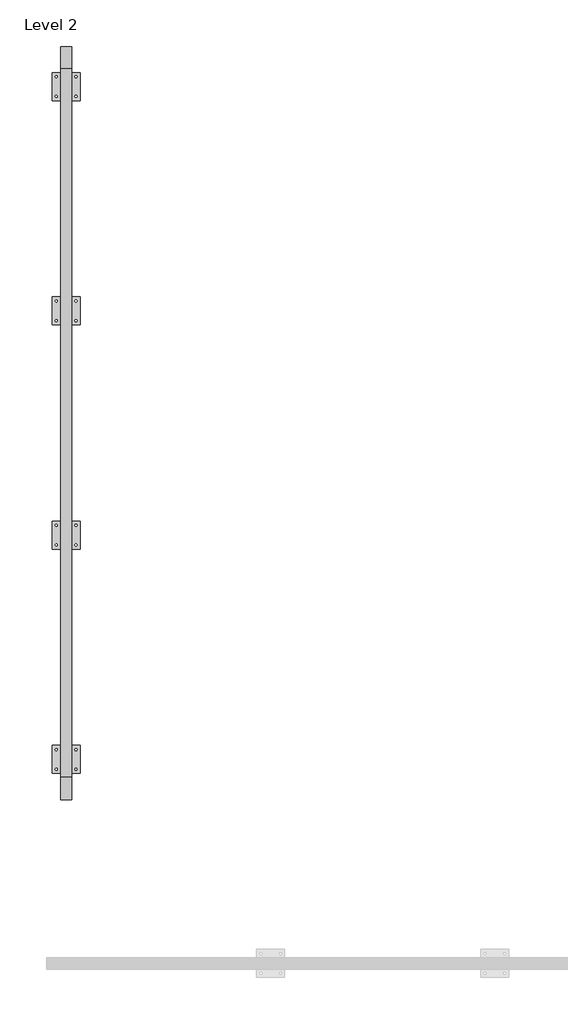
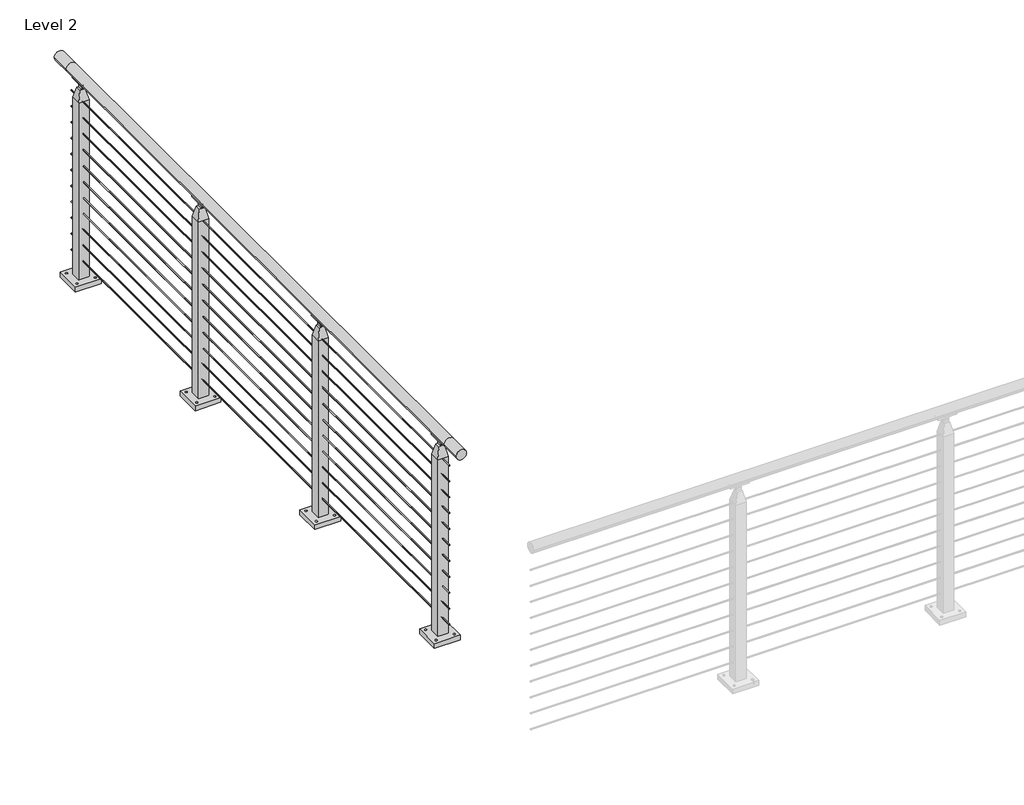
# One storey, part 7 of 17: 1 railing.
"""IFC4 building model written with IfcOpenShell, lengths in millimetres."""

from ifc_helpers import new_model, si_unit, point, frame, frame_2d, origin, place, context, project, spatial, polyline, circle_curve, trimmed, segment, composite_curve, outline, extrude, faceted_brep, element, save
from ifc_brep_helpers import plane_surface, cylinder_surface, revolved_surface, advanced_brep

model = new_model("IFC4")

# Units and contexts
model_context = context("Model", 3, world=origin())
ifc_project = project(units=[si_unit("LENGTHUNIT", "METRE", prefix="MILLI")], contexts=[model_context])

# Site, building, storey
site = spatial("IfcSite", under=ifc_project)
building = spatial("IfcBuilding", under=site)
storey = spatial("IfcBuildingStorey", under=building, Name="Level 2", Elevation=3048.0)

# Railing
placement = place(None, origin())
element("IfcRailing", 1, ObjectType="VIVA-CUBE-Cable-Floor Mount-Straight", at=placement, inside=storey, context=model_context, shape_type="SolidModel", body=[
    advanced_brep(
    [(15627.1572927, -51362.5040223, 4102.1), (15576.3572927, -51362.5040223, 4102.1), (15627.1572927, -51260.9040223, 4102.1), (15576.3572927, -51260.9040223, 4102.1), (15627.1572927, -48053.4426165, 4102.1), (15576.3572927, -48053.4426165, 4102.1), (15627.1572927, -47951.8426165, 4102.1), (15576.3572927, -47951.8426165, 4102.1)],
    [
        (0, 1, circle_curve(frame((15601.7572927, -51362.5040223, 4102.1), z_axis=(0.0, -1.0, 0.0), x_axis=(-1.0, 0.0, 0.0)), 25.4)),
        (1, 0, circle_curve(frame((15601.7572927, -51362.5040223, 4102.1), z_axis=(0.0, -1.0, 0.0), x_axis=(-1.0, 0.0, 0.0)), 25.4)),
        (0, 2),
        (2, 3, circle_curve(frame((15601.7572927, -51260.9040223, 4102.1), z_axis=(0.0, -1.0, 0.0), x_axis=(-1.0, 0.0, 0.0)), 25.4)),
        (3, 1),
        (3, 2, circle_curve(frame((15601.7572927, -51260.9040223, 4102.1), z_axis=(0.0, -1.0, 0.0), x_axis=(-1.0, 0.0, 0.0)), 25.4)),
        (2, 4),
        (4, 5, circle_curve(frame((15601.7572927, -48053.4426165, 4102.1), z_axis=(0.0, -1.0, 0.0), x_axis=(-1.0, 0.0, 0.0)), 25.4)),
        (5, 3),
        (5, 4, circle_curve(frame((15601.7572927, -48053.4426165, 4102.1), z_axis=(0.0, -1.0, 0.0), x_axis=(-1.0, 0.0, 0.0)), 25.4)),
        (6, 7, circle_curve(frame((15601.7572927, -47951.8426165, 4102.1), z_axis=(0.0, 1.0, 0.0), x_axis=(-1.0, 0.0, 0.0)), 25.4)),
        (7, 6, circle_curve(frame((15601.7572927, -47951.8426165, 4102.1), z_axis=(0.0, 1.0, 0.0), x_axis=(-1.0, 0.0, 0.0)), 25.4)),
        (4, 6),
        (7, 5),
    ],
    [
        plane_surface(frame((15601.7572927, -51362.5040223, 4127.5), z_axis=(0.0, -1.0, 0.0), x_axis=(0.0, 0.0, 1.0))),
        cylinder_surface(frame((15601.7572927, -51362.5040223, 4102.1), z_axis=(0.0, -1.0, 0.0), x_axis=(-1.0, 0.0, 0.0)), 25.4),
        cylinder_surface(frame((15601.7572927, -51260.9040223, 4102.1), z_axis=(0.0, -1.0, 0.0), x_axis=(-1.0, 0.0, 0.0)), 25.4),
        plane_surface(frame((15601.7572927, -47951.8426165, 4127.5), z_axis=(0.0, 1.0, 0.0), x_axis=(0.0, 0.0, 1.0))),
        cylinder_surface(frame((15601.7572927, -48053.4426165, 4102.1), z_axis=(0.0, -1.0, 0.0), x_axis=(-1.0, 0.0, 0.0)), 25.4),
    ],
    [
        (0, [[1, 2]]),
        (1, [[-1, 3, 4, 5]]),
        (1, [[-2, -5, 6, -3]]),
        (2, [[-4, 7, 8, 9]]),
        (2, [[-6, -9, 10, -7]]),
        (3, [[11, 12]]),
        (4, [[-8, 13, -12, 14]]),
        (4, [[-10, -14, -11, -13]]),
    ],
),
    extrude(outline(composite_curve([segment(trimmed(circle_curve(frame_2d((3985.4124, 15601.7572927)), 2.3876), [point((3985.4124, 15604.1448927))], [point((3985.4124, 15599.3696927))], False, "CARTESIAN"), True, "CONTINUOUS"), segment(trimmed(circle_curve(frame_2d((3985.4124, 15601.7572927)), 2.3876), [point((3985.4124, 15599.3696927))], [point((3985.4124, 15604.1448927))], False, "CARTESIAN"), True, "CONTINUOUS")], self_intersect=False)), frame((0.0, -51260.9040223, 0.0), z_axis=(0.0, 1.0, 0.0), x_axis=(0.0, 0.0, 1.0)), (0.0, 0.0, 1.0), 3207.4614057),
    extrude(outline(composite_curve([segment(trimmed(circle_curve(frame_2d((3902.8624, 15601.7572927)), 2.3876), [point((3902.8624, 15604.1448927))], [point((3902.8624, 15599.3696927))], False, "CARTESIAN"), True, "CONTINUOUS"), segment(trimmed(circle_curve(frame_2d((3902.8624, 15601.7572927)), 2.3876), [point((3902.8624, 15599.3696927))], [point((3902.8624, 15604.1448927))], False, "CARTESIAN"), True, "CONTINUOUS")], self_intersect=False)), frame((0.0, -51260.9040223, 0.0), z_axis=(0.0, 1.0, 0.0), x_axis=(0.0, 0.0, 1.0)), (0.0, 0.0, 1.0), 3207.4614057),
    extrude(outline(composite_curve([segment(trimmed(circle_curve(frame_2d((3820.3124, 15601.7572927)), 2.3876), [point((3820.3124, 15604.1448927))], [point((3820.3124, 15599.3696927))], False, "CARTESIAN"), True, "CONTINUOUS"), segment(trimmed(circle_curve(frame_2d((3820.3124, 15601.7572927)), 2.3876), [point((3820.3124, 15599.3696927))], [point((3820.3124, 15604.1448927))], False, "CARTESIAN"), True, "CONTINUOUS")], self_intersect=False)), frame((0.0, -51260.9040223, 0.0), z_axis=(0.0, 1.0, 0.0), x_axis=(0.0, 0.0, 1.0)), (0.0, 0.0, 1.0), 3207.4614057),
    extrude(outline(composite_curve([segment(trimmed(circle_curve(frame_2d((3737.7624, 15601.7572927)), 2.3876), [point((3737.7624, 15604.1448927))], [point((3737.7624, 15599.3696927))], False, "CARTESIAN"), True, "CONTINUOUS"), segment(trimmed(circle_curve(frame_2d((3737.7624, 15601.7572927)), 2.3876), [point((3737.7624, 15599.3696927))], [point((3737.7624, 15604.1448927))], False, "CARTESIAN"), True, "CONTINUOUS")], self_intersect=False)), frame((0.0, -51260.9040223, 0.0), z_axis=(0.0, 1.0, 0.0), x_axis=(0.0, 0.0, 1.0)), (0.0, 0.0, 1.0), 3207.4614057),
    extrude(outline(composite_curve([segment(trimmed(circle_curve(frame_2d((3655.2124, 15601.7572927)), 2.3876), [point((3655.2124, 15604.1448927))], [point((3655.2124, 15599.3696927))], False, "CARTESIAN"), True, "CONTINUOUS"), segment(trimmed(circle_curve(frame_2d((3655.2124, 15601.7572927)), 2.3876), [point((3655.2124, 15599.3696927))], [point((3655.2124, 15604.1448927))], False, "CARTESIAN"), True, "CONTINUOUS")], self_intersect=False)), frame((0.0, -51260.9040223, 0.0), z_axis=(0.0, 1.0, 0.0), x_axis=(0.0, 0.0, 1.0)), (0.0, 0.0, 1.0), 3207.4614057),
    extrude(outline(composite_curve([segment(trimmed(circle_curve(frame_2d((3572.6624, 15601.7572927)), 2.3876), [point((3572.6624, 15604.1448927))], [point((3572.6624, 15599.3696927))], False, "CARTESIAN"), True, "CONTINUOUS"), segment(trimmed(circle_curve(frame_2d((3572.6624, 15601.7572927)), 2.3876), [point((3572.6624, 15599.3696927))], [point((3572.6624, 15604.1448927))], False, "CARTESIAN"), True, "CONTINUOUS")], self_intersect=False)), frame((0.0, -51260.9040223, 0.0), z_axis=(0.0, 1.0, 0.0), x_axis=(0.0, 0.0, 1.0)), (0.0, 0.0, 1.0), 3207.4614057),
    extrude(outline(composite_curve([segment(trimmed(circle_curve(frame_2d((3490.1124, 15601.7572927)), 2.3876), [point((3490.1124, 15604.1448927))], [point((3490.1124, 15599.3696927))], False, "CARTESIAN"), True, "CONTINUOUS"), segment(trimmed(circle_curve(frame_2d((3490.1124, 15601.7572927)), 2.3876), [point((3490.1124, 15599.3696927))], [point((3490.1124, 15604.1448927))], False, "CARTESIAN"), True, "CONTINUOUS")], self_intersect=False)), frame((0.0, -51260.9040223, 0.0), z_axis=(0.0, 1.0, 0.0), x_axis=(0.0, 0.0, 1.0)), (0.0, 0.0, 1.0), 3207.4614057),
    extrude(outline(composite_curve([segment(trimmed(circle_curve(frame_2d((3407.5624, 15601.7572927)), 2.3876), [point((3407.5624, 15604.1448927))], [point((3407.5624, 15599.3696927))], False, "CARTESIAN"), True, "CONTINUOUS"), segment(trimmed(circle_curve(frame_2d((3407.5624, 15601.7572927)), 2.3876), [point((3407.5624, 15599.3696927))], [point((3407.5624, 15604.1448927))], False, "CARTESIAN"), True, "CONTINUOUS")], self_intersect=False)), frame((0.0, -51260.9040223, 0.0), z_axis=(0.0, 1.0, 0.0), x_axis=(0.0, 0.0, 1.0)), (0.0, 0.0, 1.0), 3207.4614057),
    extrude(outline(composite_curve([segment(trimmed(circle_curve(frame_2d((3325.0124, 15601.7572927)), 2.3876), [point((3325.0124, 15604.1448927))], [point((3325.0124, 15599.3696927))], False, "CARTESIAN"), True, "CONTINUOUS"), segment(trimmed(circle_curve(frame_2d((3325.0124, 15601.7572927)), 2.3876), [point((3325.0124, 15599.3696927))], [point((3325.0124, 15604.1448927))], False, "CARTESIAN"), True, "CONTINUOUS")], self_intersect=False)), frame((0.0, -51260.9040223, 0.0), z_axis=(0.0, 1.0, 0.0), x_axis=(0.0, 0.0, 1.0)), (0.0, 0.0, 1.0), 3207.4614057),
    extrude(outline(composite_curve([segment(trimmed(circle_curve(frame_2d((3242.4624, 15601.7572927)), 2.3876), [point((3242.4624, 15604.1448927))], [point((3242.4624, 15599.3696927))], False, "CARTESIAN"), True, "CONTINUOUS"), segment(trimmed(circle_curve(frame_2d((3242.4624, 15601.7572927)), 2.3876), [point((3242.4624, 15599.3696927))], [point((3242.4624, 15604.1448927))], False, "CARTESIAN"), True, "CONTINUOUS")], self_intersect=False)), frame((0.0, -51260.9040223, 0.0), z_axis=(0.0, 1.0, 0.0), x_axis=(0.0, 0.0, 1.0)), (0.0, 0.0, 1.0), 3207.4614057),
    extrude(outline(composite_curve([segment(trimmed(circle_curve(frame_2d((3159.9124, 15601.7572927)), 2.3876), [point((3159.9124, 15604.1448927))], [point((3159.9124, 15599.3696927))], False, "CARTESIAN"), True, "CONTINUOUS"), segment(trimmed(circle_curve(frame_2d((3159.9124, 15601.7572927)), 2.3876), [point((3159.9124, 15599.3696927))], [point((3159.9124, 15604.1448927))], False, "CARTESIAN"), True, "CONTINUOUS")], self_intersect=False)), frame((0.0, -51260.9040223, 0.0), z_axis=(0.0, 1.0, 0.0), x_axis=(0.0, 0.0, 1.0)), (0.0, 0.0, 1.0), 3207.4614057),
    extrude(outline(polyline([(15665.2572927, -48069.2764444), (15665.2572927, -48196.2764444), (15538.2572927, -48196.2764444), (15538.2572927, -48069.2764444), (15665.2572927, -48069.2764444)]), holes=[composite_curve([segment(trimmed(circle_curve(frame_2d((15557.3072927, -48177.2264444)), 4.7625), [point((15552.5447927, -48177.2264444))], [point((15562.0697927, -48177.2264444))], True, "CARTESIAN"), True, "CONTINUOUS"), segment(trimmed(circle_curve(frame_2d((15557.3072927, -48177.2264444)), 4.7625), [point((15562.0697927, -48177.2264444))], [point((15552.5447927, -48177.2264444))], True, "CARTESIAN"), True, "CONTINUOUS")], self_intersect=False), composite_curve([segment(trimmed(circle_curve(frame_2d((15646.2072927, -48177.2264444)), 4.7625), [point((15641.4447927, -48177.2264444))], [point((15650.9697927, -48177.2264444))], True, "CARTESIAN"), True, "CONTINUOUS"), segment(trimmed(circle_curve(frame_2d((15646.2072927, -48177.2264444)), 4.7625), [point((15650.9697927, -48177.2264444))], [point((15641.4447927, -48177.2264444))], True, "CARTESIAN"), True, "CONTINUOUS")], self_intersect=False), composite_curve([segment(trimmed(circle_curve(frame_2d((15557.3072927, -48088.3264444)), 4.7625), [point((15552.5447927, -48088.3264444))], [point((15562.0697927, -48088.3264444))], True, "CARTESIAN"), True, "CONTINUOUS"), segment(trimmed(circle_curve(frame_2d((15557.3072927, -48088.3264444)), 4.7625), [point((15562.0697927, -48088.3264444))], [point((15552.5447927, -48088.3264444))], True, "CARTESIAN"), True, "CONTINUOUS")], self_intersect=False), composite_curve([segment(trimmed(circle_curve(frame_2d((15646.2072927, -48088.3264444)), 4.7625), [point((15641.4447927, -48088.3264444))], [point((15650.9697927, -48088.3264444))], True, "CARTESIAN"), True, "CONTINUOUS"), segment(trimmed(circle_curve(frame_2d((15646.2072927, -48088.3264444)), 4.7625), [point((15650.9697927, -48088.3264444))], [point((15641.4447927, -48088.3264444))], True, "CARTESIAN"), True, "CONTINUOUS")], self_intersect=False)]), frame((0.0, 0.0, 3048.0), z_axis=(0.0, 0.0, 1.0), x_axis=(1.0, 0.0, 0.0)), (0.0, 0.0, 1.0), 25.4),
    faceted_brep([(15614.4572927, -48120.0764444, 4045.2902749), (15605.7260427, -48120.0764444, 4045.2902749), (15605.7260427, -48145.4764444, 4045.2902749), (15614.4572927, -48145.4764444, 4045.2902749), (15589.0572927, -48145.4764444, 4045.2902749), (15597.7885427, -48145.4764444, 4045.2902749), (15597.7885427, -48120.0764444, 4045.2902749), (15589.0572927, -48120.0764444, 4045.2902749), (15627.1572927, -48107.3764444, 3989.1347854), (15576.3572927, -48107.3764444, 3989.1347854), (15627.1572927, -48158.1764444, 3989.1347854), (15576.3572927, -48158.1764444, 3989.1347854), (15627.1572927, -48107.3764444, 3073.4), (15627.1572927, -48158.1764444, 3073.4), (15576.3572927, -48158.1764444, 3073.4), (15576.3572927, -48107.3764444, 3073.4), (15597.7885427, -48145.4764444, 4057.3306013), (15605.7260427, -48145.4764444, 4057.3306013), (15605.7260427, -48120.0764444, 4057.3306013), (15597.7885427, -48120.0764444, 4057.3306013)], [[[0, 1, 2, 3]], [[4, 5, 6, 7]], [[8, 9, 7, 6, 1, 0]], [[3, 10, 8, 0]], [[3, 2, 5, 4, 11, 10]], [[7, 9, 11, 4]], [[12, 13, 14, 15]], [[12, 8, 10, 13]], [[13, 10, 11, 14]], [[14, 11, 9, 15]], [[15, 9, 8, 12]], [[16, 17, 18, 19]], [[19, 6, 5, 16]], [[18, 1, 6, 19]], [[17, 2, 1, 18]], [[16, 5, 2, 17]]]),
    extrude(outline(composite_curve([segment(trimmed(circle_curve(frame_2d((4077.5101807, 15587.7426605)), 2.9558141), [point((4080.0284941, 15589.2902182))], [point((4075.6392616, 15585.4543207))], False, "CARTESIAN"), True, "CONTINUOUS"), segment(trimmed(circle_curve(frame_2d((4102.905945, 15601.720558)), 31.75), [point((4075.6392616, 15585.4543207))], [point((4075.0585031, 15616.971213))], False, "CARTESIAN"), True, "CONTINUOUS"), segment(trimmed(circle_curve(frame_2d((4077.4310885, 15615.4939079)), 2.7949225), [point((4075.0585031, 15616.971213))], [point((4079.9335733, 15614.2492548))], False, "CARTESIAN"), True, "CONTINUOUS"), segment(trimmed(circle_curve(frame_2d((4102.1433184, 15601.8540211)), 25.4345159), [point((4079.9335733, 15614.2492548))], [point((4080.0284941, 15589.2902182))], True, "CARTESIAN"), True, "CONTINUOUS")], self_intersect=False)), frame((0.0, -48178.0138444, 0.0), z_axis=(0.0, 1.0, 0.0), x_axis=(0.0, 0.0, 1.0)), (0.0, 0.0, 1.0), 90.4748),
    advanced_brep(
    [(15604.2972927, -48105.7085295, 4071.3685171), (15604.2972927, -48159.8443593, 4071.3685171), (15604.2972927, -48145.4764444, 4057.0006022), (15604.2972927, -48120.0764444, 4057.0006022), (15599.2172927, -48105.7085295, 4071.3685171), (15599.2172927, -48120.0764444, 4057.0006022), (15599.2172927, -48145.4764444, 4057.0006022), (15599.2172927, -48159.8443593, 4071.3685171)],
    [
        (0, 1),
        (1, 2, circle_curve(frame((15604.2972927, -48159.8443593, 4057.0006022), z_axis=(-1.0, 0.0, 0.0), x_axis=(0.0, -1.0, 0.0)), 14.3679149)),
        (2, 3, circle_curve(frame((15604.2972927, -48132.7764444, 4057.0006022), z_axis=(1.0, 0.0, 0.0), x_axis=(0.0, -1.0, 0.0)), 12.7)),
        (3, 0, circle_curve(frame((15604.2972927, -48105.7085295, 4057.0006022), z_axis=(-1.0, 0.0, 0.0), x_axis=(0.0, -1.0, 0.0)), 14.3679149)),
        (4, 5, circle_curve(frame((15599.2172927, -48105.7085295, 4057.0006022), z_axis=(1.0, 0.0, 0.0), x_axis=(0.0, -1.0, 0.0)), 14.3679149)),
        (5, 6, circle_curve(frame((15599.2172927, -48132.7764444, 4057.0006022), z_axis=(-1.0, 0.0, 0.0), x_axis=(0.0, -1.0, 0.0)), 12.7)),
        (6, 7, circle_curve(frame((15599.2172927, -48159.8443593, 4057.0006022), z_axis=(1.0, 0.0, 0.0), x_axis=(0.0, -1.0, 0.0)), 14.3679149)),
        (7, 4),
        (3, 5),
        (4, 0),
        (2, 6),
        (1, 7),
    ],
    [
        plane_surface(frame((15604.2972927, -48120.0764444, 4057.0006022), z_axis=(1.0, 0.0, 0.0), x_axis=(0.0, 0.0, -1.0))),
        plane_surface(frame((15599.2172927, -48120.0764444, 4057.0006022), z_axis=(-1.0, 0.0, 0.0), x_axis=(0.0, 0.0, 1.0))),
        revolved_surface(polyline([(15599.2172927, -48120.0764444, 4057.0006022), (15604.2972927, -48120.0764444, 4057.0006022)]), (15599.2172927, -48105.7085295, 4057.0006022), (-1.0, 0.0, 0.0)),
        cylinder_surface(frame((15599.2172927, -48132.7764444, 4057.0006022), z_axis=(1.0, 0.0, 0.0), x_axis=(0.0, -1.0, 0.0)), 12.7),
        revolved_surface(polyline([(15599.2172927, -48174.2122742, 4057.0006022), (15604.2972927, -48174.2122742, 4057.0006022)]), (15599.2172927, -48159.8443593, 4057.0006022), (-1.0, 0.0, 0.0)),
        plane_surface(frame((15604.2972927, -48159.8443593, 4071.3685171), z_axis=(0.0, 0.0, 1.0), x_axis=(-1.0, 0.0, 0.0))),
    ],
    [
        (0, [[1, 2, 3, 4]]),
        (1, [[5, 6, 7, 8]]),
        (2, [[9, -5, 10, -4]]),
        (3, [[11, -6, -9, -3]]),
        (4, [[12, -7, -11, -2]]),
        (5, [[-10, -8, -12, -1]]),
    ],
),
    extrude(outline(polyline([(15665.2572927, -49085.2764444), (15665.2572927, -49212.2764444), (15538.2572927, -49212.2764444), (15538.2572927, -49085.2764444), (15665.2572927, -49085.2764444)]), holes=[composite_curve([segment(trimmed(circle_curve(frame_2d((15557.3072927, -49193.2264444)), 4.7625), [point((15552.5447927, -49193.2264444))], [point((15562.0697927, -49193.2264444))], True, "CARTESIAN"), True, "CONTINUOUS"), segment(trimmed(circle_curve(frame_2d((15557.3072927, -49193.2264444)), 4.7625), [point((15562.0697927, -49193.2264444))], [point((15552.5447927, -49193.2264444))], True, "CARTESIAN"), True, "CONTINUOUS")], self_intersect=False), composite_curve([segment(trimmed(circle_curve(frame_2d((15646.2072927, -49193.2264444)), 4.7625), [point((15641.4447927, -49193.2264444))], [point((15650.9697927, -49193.2264444))], True, "CARTESIAN"), True, "CONTINUOUS"), segment(trimmed(circle_curve(frame_2d((15646.2072927, -49193.2264444)), 4.7625), [point((15650.9697927, -49193.2264444))], [point((15641.4447927, -49193.2264444))], True, "CARTESIAN"), True, "CONTINUOUS")], self_intersect=False), composite_curve([segment(trimmed(circle_curve(frame_2d((15557.3072927, -49104.3264444)), 4.7625), [point((15552.5447927, -49104.3264444))], [point((15562.0697927, -49104.3264444))], True, "CARTESIAN"), True, "CONTINUOUS"), segment(trimmed(circle_curve(frame_2d((15557.3072927, -49104.3264444)), 4.7625), [point((15562.0697927, -49104.3264444))], [point((15552.5447927, -49104.3264444))], True, "CARTESIAN"), True, "CONTINUOUS")], self_intersect=False), composite_curve([segment(trimmed(circle_curve(frame_2d((15646.2072927, -49104.3264444)), 4.7625), [point((15641.4447927, -49104.3264444))], [point((15650.9697927, -49104.3264444))], True, "CARTESIAN"), True, "CONTINUOUS"), segment(trimmed(circle_curve(frame_2d((15646.2072927, -49104.3264444)), 4.7625), [point((15650.9697927, -49104.3264444))], [point((15641.4447927, -49104.3264444))], True, "CARTESIAN"), True, "CONTINUOUS")], self_intersect=False)]), frame((0.0, 0.0, 3048.0), z_axis=(0.0, 0.0, 1.0), x_axis=(1.0, 0.0, 0.0)), (0.0, 0.0, 1.0), 25.4),
    faceted_brep([(15614.4572927, -49136.0764444, 4045.2902749), (15605.7260427, -49136.0764444, 4045.2902749), (15605.7260427, -49161.4764444, 4045.2902749), (15614.4572927, -49161.4764444, 4045.2902749), (15589.0572927, -49161.4764444, 4045.2902749), (15597.7885427, -49161.4764444, 4045.2902749), (15597.7885427, -49136.0764444, 4045.2902749), (15589.0572927, -49136.0764444, 4045.2902749), (15627.1572927, -49123.3764444, 3989.1347854), (15576.3572927, -49123.3764444, 3989.1347854), (15627.1572927, -49174.1764444, 3989.1347854), (15576.3572927, -49174.1764444, 3989.1347854), (15627.1572927, -49123.3764444, 3073.4), (15627.1572927, -49174.1764444, 3073.4), (15576.3572927, -49174.1764444, 3073.4), (15576.3572927, -49123.3764444, 3073.4), (15597.7885427, -49161.4764444, 4057.3306013), (15605.7260427, -49161.4764444, 4057.3306013), (15605.7260427, -49136.0764444, 4057.3306013), (15597.7885427, -49136.0764444, 4057.3306013)], [[[0, 1, 2, 3]], [[4, 5, 6, 7]], [[8, 9, 7, 6, 1, 0]], [[3, 10, 8, 0]], [[3, 2, 5, 4, 11, 10]], [[7, 9, 11, 4]], [[12, 13, 14, 15]], [[12, 8, 10, 13]], [[13, 10, 11, 14]], [[14, 11, 9, 15]], [[15, 9, 8, 12]], [[16, 17, 18, 19]], [[19, 6, 5, 16]], [[18, 1, 6, 19]], [[17, 2, 1, 18]], [[16, 5, 2, 17]]]),
    extrude(outline(composite_curve([segment(trimmed(circle_curve(frame_2d((4077.5101807, 15587.7426605)), 2.9558141), [point((4080.0284941, 15589.2902182))], [point((4075.6392616, 15585.4543207))], False, "CARTESIAN"), True, "CONTINUOUS"), segment(trimmed(circle_curve(frame_2d((4102.905945, 15601.720558)), 31.75), [point((4075.6392616, 15585.4543207))], [point((4075.0585031, 15616.971213))], False, "CARTESIAN"), True, "CONTINUOUS"), segment(trimmed(circle_curve(frame_2d((4077.4310885, 15615.4939079)), 2.7949225), [point((4075.0585031, 15616.971213))], [point((4079.9335733, 15614.2492548))], False, "CARTESIAN"), True, "CONTINUOUS"), segment(trimmed(circle_curve(frame_2d((4102.1433184, 15601.8540211)), 25.4345159), [point((4079.9335733, 15614.2492548))], [point((4080.0284941, 15589.2902182))], True, "CARTESIAN"), True, "CONTINUOUS")], self_intersect=False)), frame((0.0, -49194.0138444, 0.0), z_axis=(0.0, 1.0, 0.0), x_axis=(0.0, 0.0, 1.0)), (0.0, 0.0, 1.0), 90.4748),
    advanced_brep(
    [(15604.2972927, -49121.7085295, 4071.3685171), (15604.2972927, -49175.8443593, 4071.3685171), (15604.2972927, -49161.4764444, 4057.0006022), (15604.2972927, -49136.0764444, 4057.0006022), (15599.2172927, -49121.7085295, 4071.3685171), (15599.2172927, -49136.0764444, 4057.0006022), (15599.2172927, -49161.4764444, 4057.0006022), (15599.2172927, -49175.8443593, 4071.3685171)],
    [
        (0, 1),
        (1, 2, circle_curve(frame((15604.2972927, -49175.8443593, 4057.0006022), z_axis=(-1.0, 0.0, 0.0), x_axis=(0.0, -1.0, 0.0)), 14.3679149)),
        (2, 3, circle_curve(frame((15604.2972927, -49148.7764444, 4057.0006022), z_axis=(1.0, 0.0, 0.0), x_axis=(0.0, -1.0, 0.0)), 12.7)),
        (3, 0, circle_curve(frame((15604.2972927, -49121.7085295, 4057.0006022), z_axis=(-1.0, 0.0, 0.0), x_axis=(0.0, -1.0, 0.0)), 14.3679149)),
        (4, 5, circle_curve(frame((15599.2172927, -49121.7085295, 4057.0006022), z_axis=(1.0, 0.0, 0.0), x_axis=(0.0, -1.0, 0.0)), 14.3679149)),
        (5, 6, circle_curve(frame((15599.2172927, -49148.7764444, 4057.0006022), z_axis=(-1.0, 0.0, 0.0), x_axis=(0.0, -1.0, 0.0)), 12.7)),
        (6, 7, circle_curve(frame((15599.2172927, -49175.8443593, 4057.0006022), z_axis=(1.0, 0.0, 0.0), x_axis=(0.0, -1.0, 0.0)), 14.3679149)),
        (7, 4),
        (3, 5),
        (4, 0),
        (2, 6),
        (1, 7),
    ],
    [
        plane_surface(frame((15604.2972927, -49136.0764444, 4057.0006022), z_axis=(1.0, 0.0, 0.0), x_axis=(0.0, 0.0, -1.0))),
        plane_surface(frame((15599.2172927, -49136.0764444, 4057.0006022), z_axis=(-1.0, 0.0, 0.0), x_axis=(0.0, 0.0, 1.0))),
        revolved_surface(polyline([(15599.2172927, -49136.0764444, 4057.0006022), (15604.2972927, -49136.0764444, 4057.0006022)]), (15599.2172927, -49121.7085295, 4057.0006022), (-1.0, 0.0, 0.0)),
        cylinder_surface(frame((15599.2172927, -49148.7764444, 4057.0006022), z_axis=(1.0, 0.0, 0.0), x_axis=(0.0, -1.0, 0.0)), 12.7),
        revolved_surface(polyline([(15599.2172927, -49190.2122742, 4057.0006022), (15604.2972927, -49190.2122742, 4057.0006022)]), (15599.2172927, -49175.8443593, 4057.0006022), (-1.0, 0.0, 0.0)),
        plane_surface(frame((15604.2972927, -49175.8443593, 4071.3685171), z_axis=(0.0, 0.0, 1.0), x_axis=(-1.0, 0.0, 0.0))),
    ],
    [
        (0, [[1, 2, 3, 4]]),
        (1, [[5, 6, 7, 8]]),
        (2, [[9, -5, 10, -4]]),
        (3, [[11, -6, -9, -3]]),
        (4, [[12, -7, -11, -2]]),
        (5, [[-10, -8, -12, -1]]),
    ],
),
    extrude(outline(polyline([(15665.2572927, -50101.2764444), (15665.2572927, -50228.2764444), (15538.2572927, -50228.2764444), (15538.2572927, -50101.2764444), (15665.2572927, -50101.2764444)]), holes=[composite_curve([segment(trimmed(circle_curve(frame_2d((15557.3072927, -50209.2264444)), 4.7625), [point((15552.5447927, -50209.2264444))], [point((15562.0697927, -50209.2264444))], True, "CARTESIAN"), True, "CONTINUOUS"), segment(trimmed(circle_curve(frame_2d((15557.3072927, -50209.2264444)), 4.7625), [point((15562.0697927, -50209.2264444))], [point((15552.5447927, -50209.2264444))], True, "CARTESIAN"), True, "CONTINUOUS")], self_intersect=False), composite_curve([segment(trimmed(circle_curve(frame_2d((15646.2072927, -50209.2264444)), 4.7625), [point((15641.4447927, -50209.2264444))], [point((15650.9697927, -50209.2264444))], True, "CARTESIAN"), True, "CONTINUOUS"), segment(trimmed(circle_curve(frame_2d((15646.2072927, -50209.2264444)), 4.7625), [point((15650.9697927, -50209.2264444))], [point((15641.4447927, -50209.2264444))], True, "CARTESIAN"), True, "CONTINUOUS")], self_intersect=False), composite_curve([segment(trimmed(circle_curve(frame_2d((15557.3072927, -50120.3264444)), 4.7625), [point((15552.5447927, -50120.3264444))], [point((15562.0697927, -50120.3264444))], True, "CARTESIAN"), True, "CONTINUOUS"), segment(trimmed(circle_curve(frame_2d((15557.3072927, -50120.3264444)), 4.7625), [point((15562.0697927, -50120.3264444))], [point((15552.5447927, -50120.3264444))], True, "CARTESIAN"), True, "CONTINUOUS")], self_intersect=False), composite_curve([segment(trimmed(circle_curve(frame_2d((15646.2072927, -50120.3264444)), 4.7625), [point((15641.4447927, -50120.3264444))], [point((15650.9697927, -50120.3264444))], True, "CARTESIAN"), True, "CONTINUOUS"), segment(trimmed(circle_curve(frame_2d((15646.2072927, -50120.3264444)), 4.7625), [point((15650.9697927, -50120.3264444))], [point((15641.4447927, -50120.3264444))], True, "CARTESIAN"), True, "CONTINUOUS")], self_intersect=False)]), frame((0.0, 0.0, 3048.0), z_axis=(0.0, 0.0, 1.0), x_axis=(1.0, 0.0, 0.0)), (0.0, 0.0, 1.0), 25.4),
    faceted_brep([(15614.4572927, -50152.0764444, 4045.2902749), (15605.7260427, -50152.0764444, 4045.2902749), (15605.7260427, -50177.4764444, 4045.2902749), (15614.4572927, -50177.4764444, 4045.2902749), (15589.0572927, -50177.4764444, 4045.2902749), (15597.7885427, -50177.4764444, 4045.2902749), (15597.7885427, -50152.0764444, 4045.2902749), (15589.0572927, -50152.0764444, 4045.2902749), (15627.1572927, -50139.3764444, 3989.1347854), (15576.3572927, -50139.3764444, 3989.1347854), (15627.1572927, -50190.1764444, 3989.1347854), (15576.3572927, -50190.1764444, 3989.1347854), (15627.1572927, -50139.3764444, 3073.4), (15627.1572927, -50190.1764444, 3073.4), (15576.3572927, -50190.1764444, 3073.4), (15576.3572927, -50139.3764444, 3073.4), (15597.7885427, -50177.4764444, 4057.3306013), (15605.7260427, -50177.4764444, 4057.3306013), (15605.7260427, -50152.0764444, 4057.3306013), (15597.7885427, -50152.0764444, 4057.3306013)], [[[0, 1, 2, 3]], [[4, 5, 6, 7]], [[8, 9, 7, 6, 1, 0]], [[3, 10, 8, 0]], [[3, 2, 5, 4, 11, 10]], [[7, 9, 11, 4]], [[12, 13, 14, 15]], [[12, 8, 10, 13]], [[13, 10, 11, 14]], [[14, 11, 9, 15]], [[15, 9, 8, 12]], [[16, 17, 18, 19]], [[19, 6, 5, 16]], [[18, 1, 6, 19]], [[17, 2, 1, 18]], [[16, 5, 2, 17]]]),
    extrude(outline(composite_curve([segment(trimmed(circle_curve(frame_2d((4077.5101807, 15587.7426605)), 2.9558141), [point((4080.0284941, 15589.2902182))], [point((4075.6392616, 15585.4543207))], False, "CARTESIAN"), True, "CONTINUOUS"), segment(trimmed(circle_curve(frame_2d((4102.905945, 15601.720558)), 31.75), [point((4075.6392616, 15585.4543207))], [point((4075.0585031, 15616.971213))], False, "CARTESIAN"), True, "CONTINUOUS"), segment(trimmed(circle_curve(frame_2d((4077.4310885, 15615.4939079)), 2.7949225), [point((4075.0585031, 15616.971213))], [point((4079.9335733, 15614.2492548))], False, "CARTESIAN"), True, "CONTINUOUS"), segment(trimmed(circle_curve(frame_2d((4102.1433184, 15601.8540211)), 25.4345159), [point((4079.9335733, 15614.2492548))], [point((4080.0284941, 15589.2902182))], True, "CARTESIAN"), True, "CONTINUOUS")], self_intersect=False)), frame((0.0, -50210.0138444, 0.0), z_axis=(0.0, 1.0, 0.0), x_axis=(0.0, 0.0, 1.0)), (0.0, 0.0, 1.0), 90.4748),
    advanced_brep(
    [(15604.2972927, -50137.7085295, 4071.3685171), (15604.2972927, -50191.8443593, 4071.3685171), (15604.2972927, -50177.4764444, 4057.0006022), (15604.2972927, -50152.0764444, 4057.0006022), (15599.2172927, -50137.7085295, 4071.3685171), (15599.2172927, -50152.0764444, 4057.0006022), (15599.2172927, -50177.4764444, 4057.0006022), (15599.2172927, -50191.8443593, 4071.3685171)],
    [
        (0, 1),
        (1, 2, circle_curve(frame((15604.2972927, -50191.8443593, 4057.0006022), z_axis=(-1.0, 0.0, 0.0), x_axis=(0.0, -1.0, 0.0)), 14.3679149)),
        (2, 3, circle_curve(frame((15604.2972927, -50164.7764444, 4057.0006022), z_axis=(1.0, 0.0, 0.0), x_axis=(0.0, -1.0, 0.0)), 12.7)),
        (3, 0, circle_curve(frame((15604.2972927, -50137.7085295, 4057.0006022), z_axis=(-1.0, 0.0, 0.0), x_axis=(0.0, -1.0, 0.0)), 14.3679149)),
        (4, 5, circle_curve(frame((15599.2172927, -50137.7085295, 4057.0006022), z_axis=(1.0, 0.0, 0.0), x_axis=(0.0, -1.0, 0.0)), 14.3679149)),
        (5, 6, circle_curve(frame((15599.2172927, -50164.7764444, 4057.0006022), z_axis=(-1.0, 0.0, 0.0), x_axis=(0.0, -1.0, 0.0)), 12.7)),
        (6, 7, circle_curve(frame((15599.2172927, -50191.8443593, 4057.0006022), z_axis=(1.0, 0.0, 0.0), x_axis=(0.0, -1.0, 0.0)), 14.3679149)),
        (7, 4),
        (3, 5),
        (4, 0),
        (2, 6),
        (1, 7),
    ],
    [
        plane_surface(frame((15604.2972927, -50152.0764444, 4057.0006022), z_axis=(1.0, 0.0, 0.0), x_axis=(0.0, 0.0, -1.0))),
        plane_surface(frame((15599.2172927, -50152.0764444, 4057.0006022), z_axis=(-1.0, 0.0, 0.0), x_axis=(0.0, 0.0, 1.0))),
        revolved_surface(polyline([(15599.2172927, -50152.0764444, 4057.0006022), (15604.2972927, -50152.0764444, 4057.0006022)]), (15599.2172927, -50137.7085295, 4057.0006022), (-1.0, 0.0, 0.0)),
        cylinder_surface(frame((15599.2172927, -50164.7764444, 4057.0006022), z_axis=(1.0, 0.0, 0.0), x_axis=(0.0, -1.0, 0.0)), 12.7),
        revolved_surface(polyline([(15599.2172927, -50206.2122742, 4057.0006022), (15604.2972927, -50206.2122742, 4057.0006022)]), (15599.2172927, -50191.8443593, 4057.0006022), (-1.0, 0.0, 0.0)),
        plane_surface(frame((15604.2972927, -50191.8443593, 4071.3685171), z_axis=(0.0, 0.0, 1.0), x_axis=(-1.0, 0.0, 0.0))),
    ],
    [
        (0, [[1, 2, 3, 4]]),
        (1, [[5, 6, 7, 8]]),
        (2, [[9, -5, 10, -4]]),
        (3, [[11, -6, -9, -3]]),
        (4, [[12, -7, -11, -2]]),
        (5, [[-10, -8, -12, -1]]),
    ],
),
    extrude(outline(polyline([(15665.2572927, -51117.2764444), (15665.2572927, -51244.2764444), (15538.2572927, -51244.2764444), (15538.2572927, -51117.2764444), (15665.2572927, -51117.2764444)]), holes=[composite_curve([segment(trimmed(circle_curve(frame_2d((15557.3072927, -51225.2264444)), 4.7625), [point((15552.5447927, -51225.2264444))], [point((15562.0697927, -51225.2264444))], True, "CARTESIAN"), True, "CONTINUOUS"), segment(trimmed(circle_curve(frame_2d((15557.3072927, -51225.2264444)), 4.7625), [point((15562.0697927, -51225.2264444))], [point((15552.5447927, -51225.2264444))], True, "CARTESIAN"), True, "CONTINUOUS")], self_intersect=False), composite_curve([segment(trimmed(circle_curve(frame_2d((15646.2072927, -51225.2264444)), 4.7625), [point((15641.4447927, -51225.2264444))], [point((15650.9697927, -51225.2264444))], True, "CARTESIAN"), True, "CONTINUOUS"), segment(trimmed(circle_curve(frame_2d((15646.2072927, -51225.2264444)), 4.7625), [point((15650.9697927, -51225.2264444))], [point((15641.4447927, -51225.2264444))], True, "CARTESIAN"), True, "CONTINUOUS")], self_intersect=False), composite_curve([segment(trimmed(circle_curve(frame_2d((15557.3072927, -51136.3264444)), 4.7625), [point((15552.5447927, -51136.3264444))], [point((15562.0697927, -51136.3264444))], True, "CARTESIAN"), True, "CONTINUOUS"), segment(trimmed(circle_curve(frame_2d((15557.3072927, -51136.3264444)), 4.7625), [point((15562.0697927, -51136.3264444))], [point((15552.5447927, -51136.3264444))], True, "CARTESIAN"), True, "CONTINUOUS")], self_intersect=False), composite_curve([segment(trimmed(circle_curve(frame_2d((15646.2072927, -51136.3264444)), 4.7625), [point((15641.4447927, -51136.3264444))], [point((15650.9697927, -51136.3264444))], True, "CARTESIAN"), True, "CONTINUOUS"), segment(trimmed(circle_curve(frame_2d((15646.2072927, -51136.3264444)), 4.7625), [point((15650.9697927, -51136.3264444))], [point((15641.4447927, -51136.3264444))], True, "CARTESIAN"), True, "CONTINUOUS")], self_intersect=False)]), frame((0.0, 0.0, 3048.0), z_axis=(0.0, 0.0, 1.0), x_axis=(1.0, 0.0, 0.0)), (0.0, 0.0, 1.0), 25.4),
    faceted_brep([(15614.4572927, -51168.0764444, 4045.2902749), (15605.7260427, -51168.0764444, 4045.2902749), (15605.7260427, -51193.4764444, 4045.2902749), (15614.4572927, -51193.4764444, 4045.2902749), (15589.0572927, -51193.4764444, 4045.2902749), (15597.7885427, -51193.4764444, 4045.2902749), (15597.7885427, -51168.0764444, 4045.2902749), (15589.0572927, -51168.0764444, 4045.2902749), (15627.1572927, -51155.3764444, 3989.1347854), (15576.3572927, -51155.3764444, 3989.1347854), (15627.1572927, -51206.1764444, 3989.1347854), (15576.3572927, -51206.1764444, 3989.1347854), (15627.1572927, -51155.3764444, 3073.4), (15627.1572927, -51206.1764444, 3073.4), (15576.3572927, -51206.1764444, 3073.4), (15576.3572927, -51155.3764444, 3073.4), (15597.7885427, -51193.4764444, 4057.3306013), (15605.7260427, -51193.4764444, 4057.3306013), (15605.7260427, -51168.0764444, 4057.3306013), (15597.7885427, -51168.0764444, 4057.3306013)], [[[0, 1, 2, 3]], [[4, 5, 6, 7]], [[8, 9, 7, 6, 1, 0]], [[3, 10, 8, 0]], [[3, 2, 5, 4, 11, 10]], [[7, 9, 11, 4]], [[12, 13, 14, 15]], [[12, 8, 10, 13]], [[13, 10, 11, 14]], [[14, 11, 9, 15]], [[15, 9, 8, 12]], [[16, 17, 18, 19]], [[19, 6, 5, 16]], [[18, 1, 6, 19]], [[17, 2, 1, 18]], [[16, 5, 2, 17]]]),
    extrude(outline(composite_curve([segment(trimmed(circle_curve(frame_2d((4077.5101807, 15587.7426605)), 2.9558141), [point((4080.0284941, 15589.2902182))], [point((4075.6392616, 15585.4543207))], False, "CARTESIAN"), True, "CONTINUOUS"), segment(trimmed(circle_curve(frame_2d((4102.905945, 15601.720558)), 31.75), [point((4075.6392616, 15585.4543207))], [point((4075.0585031, 15616.971213))], False, "CARTESIAN"), True, "CONTINUOUS"), segment(trimmed(circle_curve(frame_2d((4077.4310885, 15615.4939079)), 2.7949225), [point((4075.0585031, 15616.971213))], [point((4079.9335733, 15614.2492548))], False, "CARTESIAN"), True, "CONTINUOUS"), segment(trimmed(circle_curve(frame_2d((4102.1433184, 15601.8540211)), 25.4345159), [point((4079.9335733, 15614.2492548))], [point((4080.0284941, 15589.2902182))], True, "CARTESIAN"), True, "CONTINUOUS")], self_intersect=False)), frame((0.0, -51226.0138444, 0.0), z_axis=(0.0, 1.0, 0.0), x_axis=(0.0, 0.0, 1.0)), (0.0, 0.0, 1.0), 90.4748),
    advanced_brep(
    [(15604.2972927, -51153.7085295, 4071.3685171), (15604.2972927, -51207.8443593, 4071.3685171), (15604.2972927, -51193.4764444, 4057.0006022), (15604.2972927, -51168.0764444, 4057.0006022), (15599.2172927, -51153.7085295, 4071.3685171), (15599.2172927, -51168.0764444, 4057.0006022), (15599.2172927, -51193.4764444, 4057.0006022), (15599.2172927, -51207.8443593, 4071.3685171)],
    [
        (0, 1),
        (1, 2, circle_curve(frame((15604.2972927, -51207.8443593, 4057.0006022), z_axis=(-1.0, 0.0, 0.0), x_axis=(0.0, -1.0, 0.0)), 14.3679149)),
        (2, 3, circle_curve(frame((15604.2972927, -51180.7764444, 4057.0006022), z_axis=(1.0, 0.0, 0.0), x_axis=(0.0, -1.0, 0.0)), 12.7)),
        (3, 0, circle_curve(frame((15604.2972927, -51153.7085295, 4057.0006022), z_axis=(-1.0, 0.0, 0.0), x_axis=(0.0, -1.0, 0.0)), 14.3679149)),
        (4, 5, circle_curve(frame((15599.2172927, -51153.7085295, 4057.0006022), z_axis=(1.0, 0.0, 0.0), x_axis=(0.0, -1.0, 0.0)), 14.3679149)),
        (5, 6, circle_curve(frame((15599.2172927, -51180.7764444, 4057.0006022), z_axis=(-1.0, 0.0, 0.0), x_axis=(0.0, -1.0, 0.0)), 12.7)),
        (6, 7, circle_curve(frame((15599.2172927, -51207.8443593, 4057.0006022), z_axis=(1.0, 0.0, 0.0), x_axis=(0.0, -1.0, 0.0)), 14.3679149)),
        (7, 4),
        (3, 5),
        (4, 0),
        (2, 6),
        (1, 7),
    ],
    [
        plane_surface(frame((15604.2972927, -51168.0764444, 4057.0006022), z_axis=(1.0, 0.0, 0.0), x_axis=(0.0, 0.0, -1.0))),
        plane_surface(frame((15599.2172927, -51168.0764444, 4057.0006022), z_axis=(-1.0, 0.0, 0.0), x_axis=(0.0, 0.0, 1.0))),
        revolved_surface(polyline([(15599.2172927, -51168.0764444, 4057.0006022), (15604.2972927, -51168.0764444, 4057.0006022)]), (15599.2172927, -51153.7085295, 4057.0006022), (-1.0, 0.0, 0.0)),
        cylinder_surface(frame((15599.2172927, -51180.7764444, 4057.0006022), z_axis=(1.0, 0.0, 0.0), x_axis=(0.0, -1.0, 0.0)), 12.7),
        revolved_surface(polyline([(15599.2172927, -51222.2122742, 4057.0006022), (15604.2972927, -51222.2122742, 4057.0006022)]), (15599.2172927, -51207.8443593, 4057.0006022), (-1.0, 0.0, 0.0)),
        plane_surface(frame((15604.2972927, -51207.8443593, 4071.3685171), z_axis=(0.0, 0.0, 1.0), x_axis=(-1.0, 0.0, 0.0))),
    ],
    [
        (0, [[1, 2, 3, 4]]),
        (1, [[5, 6, 7, 8]]),
        (2, [[9, -5, 10, -4]]),
        (3, [[11, -6, -9, -3]]),
        (4, [[12, -7, -11, -2]]),
        (5, [[-10, -8, -12, -1]]),
    ],
),
])

save(model, "model.ifc")
